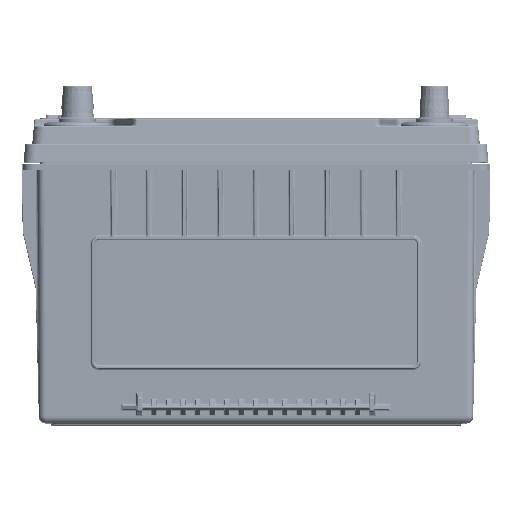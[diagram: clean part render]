
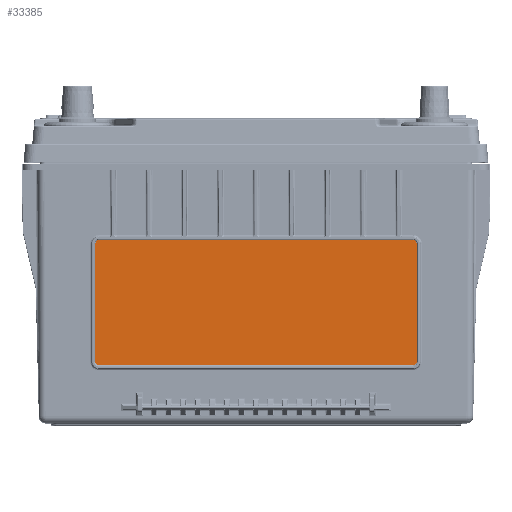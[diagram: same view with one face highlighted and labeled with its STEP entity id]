
A CAD part, top view. The second image highlights one B-rep face of the part: STEP entity #33385.
In plain terms, the highlighted planar face has unit normal (0, -0.009, 1).
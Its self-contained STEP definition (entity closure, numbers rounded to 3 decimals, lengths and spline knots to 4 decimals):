
#434 = CARTESIAN_POINT ( 'NONE',  ( -3.7251, -1.7207, 3.1645 ) ) ;
#615 = CARTESIAN_POINT ( 'NONE',  ( 3.7251, -4.5008, 3.1403 ) ) ;
#4220 = CARTESIAN_POINT ( 'NONE',  ( 3.7251, -4.451, 3.1407 ) ) ;
#5897 =( BOUNDED_CURVE ( )  B_SPLINE_CURVE ( 3, ( #105327, #11738, #615, #4220 ),
 .UNSPECIFIED., .F., .F. ) 
 B_SPLINE_CURVE_WITH_KNOTS ( ( 4, 4 ),
 ( 2.0345, 3.6051 ),
 .UNSPECIFIED. ) 
 CURVE ( )  GEOMETRIC_REPRESENTATION_ITEM ( )  RATIONAL_B_SPLINE_CURVE ( ( 1., 0.805, 0.805, 1. ) ) 
 REPRESENTATION_ITEM ( '' )  );
#6795 = VECTOR ( 'NONE', #172467, 39.3701 ) ;
#11738 = CARTESIAN_POINT ( 'NONE',  ( 3.6899, -4.536, 3.14 ) ) ;
#15332 = VERTEX_POINT ( 'NONE', #238835 ) ;
#21867 = VERTEX_POINT ( 'NONE', #434 ) ;
#24700 = LINE ( 'NONE', #57184, #105986 ) ;
#26853 = CARTESIAN_POINT ( 'NONE',  ( 3.7251, -1.6709, 3.165 ) ) ;
#33385 = ADVANCED_FACE ( 'NONE', ( #116853 ), #189545, .T. ) ;
#33875 = EDGE_CURVE ( 'NONE', #130280, #15332, #5897, .T. ) ;
#36745 = EDGE_CURVE ( 'NONE', #191057, #21867, #146114, .T. ) ;
#38732 = VECTOR ( 'NONE', #177592, 39.3701 ) ;
#40058 = CARTESIAN_POINT ( 'NONE',  ( -3.6899, -4.536, 3.14 ) ) ;
#40537 = DIRECTION ( 'NONE',  ( 0., -1., -0.009 ) ) ;
#41036 = ORIENTED_EDGE ( 'NONE', *, *, #100499, .T. ) ;
#42056 = DIRECTION ( 'NONE',  ( -1., 0., 0. ) ) ;
#43169 = LINE ( 'NONE', #117072, #6795 ) ;
#44426 = DIRECTION ( 'NONE',  ( 0., -1., -0.009 ) ) ;
#45543 = VERTEX_POINT ( 'NONE', #124583 ) ;
#50218 = CARTESIAN_POINT ( 'NONE',  ( 3.7251, -1.7207, 3.1645 ) ) ;
#57184 = CARTESIAN_POINT ( 'NONE',  ( -3.7251, -4.4509, 3.1407 ) ) ;
#61772 = LINE ( 'NONE', #112594, #79867 ) ;
#66073 = CARTESIAN_POINT ( 'NONE',  ( 3.6401, -4.536, 3.14 ) ) ;
#67491 = CARTESIAN_POINT ( 'NONE',  ( 3.6899, -1.6358, 3.1653 ) ) ;
#76280 = CARTESIAN_POINT ( 'NONE',  ( -5.034, -5.877, 3.1282 ) ) ;
#79867 = VECTOR ( 'NONE', #42056, 39.3701 ) ;
#84281 = VERTEX_POINT ( 'NONE', #144496 ) ;
#90224 = EDGE_CURVE ( 'NONE', #45543, #191057, #61772, .T. ) ;
#92148 = VERTEX_POINT ( 'NONE', #155674 ) ;
#100499 = EDGE_CURVE ( 'NONE', #84281, #45543, #239598, .T. ) ;
#105327 = CARTESIAN_POINT ( 'NONE',  ( 3.6401, -4.536, 3.14 ) ) ;
#105881 = VERTEX_POINT ( 'NONE', #118892 ) ;
#105986 = VECTOR ( 'NONE', #44426, 39.3701 ) ;
#108754 = EDGE_LOOP ( 'NONE', ( #115801, #41036, #214124, #241713, #201074, #215392, #218170, #134198 ) ) ;
#111384 = EDGE_CURVE ( 'NONE', #15332, #84281, #43169, .T. ) ;
#112594 = CARTESIAN_POINT ( 'NONE',  ( -5.034, -1.6358, 3.1653 ) ) ;
#112705 = CARTESIAN_POINT ( 'NONE',  ( -3.6401, -4.536, 3.14 ) ) ;
#115801 = ORIENTED_EDGE ( 'NONE', *, *, #111384, .T. ) ;
#116853 = FACE_OUTER_BOUND ( 'NONE', #108754, .T. ) ;
#117072 = CARTESIAN_POINT ( 'NONE',  ( 3.7251, -1.7211, 3.1645 ) ) ;
#118892 = CARTESIAN_POINT ( 'NONE',  ( -3.6401, -4.536, 3.14 ) ) ;
#124583 = CARTESIAN_POINT ( 'NONE',  ( 3.6401, -1.6358, 3.1653 ) ) ;
#125728 = CARTESIAN_POINT ( 'NONE',  ( -3.6401, -1.6358, 3.1653 ) ) ;
#130280 = VERTEX_POINT ( 'NONE', #66073 ) ;
#134198 = ORIENTED_EDGE ( 'NONE', *, *, #33875, .T. ) ;
#140172 = CARTESIAN_POINT ( 'NONE',  ( 3.6401, -1.6358, 3.1653 ) ) ;
#141534 = EDGE_CURVE ( 'NONE', #92148, #105881, #206419, .T. ) ;
#141789 = CARTESIAN_POINT ( 'NONE',  ( -3.6899, -1.6358, 3.1653 ) ) ;
#144496 = CARTESIAN_POINT ( 'NONE',  ( 3.7251, -1.7207, 3.1645 ) ) ;
#146114 =( BOUNDED_CURVE ( )  B_SPLINE_CURVE ( 3, ( #125728, #141789, #179951, #216909 ),
 .UNSPECIFIED., .F., .F. ) 
 B_SPLINE_CURVE_WITH_KNOTS ( ( 4, 4 ),
 ( 2.5539, 4.1242 ),
 .UNSPECIFIED. ) 
 CURVE ( )  GEOMETRIC_REPRESENTATION_ITEM ( )  RATIONAL_B_SPLINE_CURVE ( ( 1., 0.805, 0.805, 1. ) ) 
 REPRESENTATION_ITEM ( '' )  );
#147259 = CARTESIAN_POINT ( 'NONE',  ( -3.7251, -4.451, 3.1407 ) ) ;
#153064 = LINE ( 'NONE', #214588, #38732 ) ;
#155674 = CARTESIAN_POINT ( 'NONE',  ( -3.7251, -4.451, 3.1407 ) ) ;
#157926 = AXIS2_PLACEMENT_3D ( 'NONE', #76280, #230104, #40537 ) ;
#160506 = CARTESIAN_POINT ( 'NONE',  ( -3.6401, -1.6358, 3.1653 ) ) ;
#165587 = EDGE_CURVE ( 'NONE', #105881, #130280, #153064, .T. ) ;
#172467 = DIRECTION ( 'NONE',  ( 0., 1., 0.009 ) ) ;
#177592 = DIRECTION ( 'NONE',  ( 1., 0., 0. ) ) ;
#179951 = CARTESIAN_POINT ( 'NONE',  ( -3.7251, -1.6709, 3.165 ) ) ;
#189545 = PLANE ( 'NONE',  #157926 ) ;
#191057 = VERTEX_POINT ( 'NONE', #160506 ) ;
#201074 = ORIENTED_EDGE ( 'NONE', *, *, #223086, .T. ) ;
#206419 =( BOUNDED_CURVE ( )  B_SPLINE_CURVE ( 3, ( #147259, #222357, #40058, #112705 ),
 .UNSPECIFIED., .F., .F. ) 
 B_SPLINE_CURVE_WITH_KNOTS ( ( 4, 4 ),
 ( 5.8196, 7.3903 ),
 .UNSPECIFIED. ) 
 CURVE ( )  GEOMETRIC_REPRESENTATION_ITEM ( )  RATIONAL_B_SPLINE_CURVE ( ( 1., 0.805, 0.805, 1. ) ) 
 REPRESENTATION_ITEM ( '' )  );
#214124 = ORIENTED_EDGE ( 'NONE', *, *, #90224, .T. ) ;
#214588 = CARTESIAN_POINT ( 'NONE',  ( -5.034, -4.536, 3.14 ) ) ;
#215392 = ORIENTED_EDGE ( 'NONE', *, *, #141534, .T. ) ;
#216909 = CARTESIAN_POINT ( 'NONE',  ( -3.7251, -1.7207, 3.1645 ) ) ;
#218170 = ORIENTED_EDGE ( 'NONE', *, *, #165587, .T. ) ;
#222357 = CARTESIAN_POINT ( 'NONE',  ( -3.7251, -4.5008, 3.1403 ) ) ;
#223086 = EDGE_CURVE ( 'NONE', #21867, #92148, #24700, .T. ) ;
#230104 = DIRECTION ( 'NONE',  ( 0., -0.009, 1. ) ) ;
#238835 = CARTESIAN_POINT ( 'NONE',  ( 3.7251, -4.451, 3.1407 ) ) ;
#239598 =( BOUNDED_CURVE ( )  B_SPLINE_CURVE ( 3, ( #50218, #26853, #67491, #140172 ),
 .UNSPECIFIED., .F., .F. ) 
 B_SPLINE_CURVE_WITH_KNOTS ( ( 4, 4 ),
 ( 5.3006, 6.8709 ),
 .UNSPECIFIED. ) 
 CURVE ( )  GEOMETRIC_REPRESENTATION_ITEM ( )  RATIONAL_B_SPLINE_CURVE ( ( 1., 0.805, 0.805, 1. ) ) 
 REPRESENTATION_ITEM ( '' )  );
#241713 = ORIENTED_EDGE ( 'NONE', *, *, #36745, .T. ) ;
